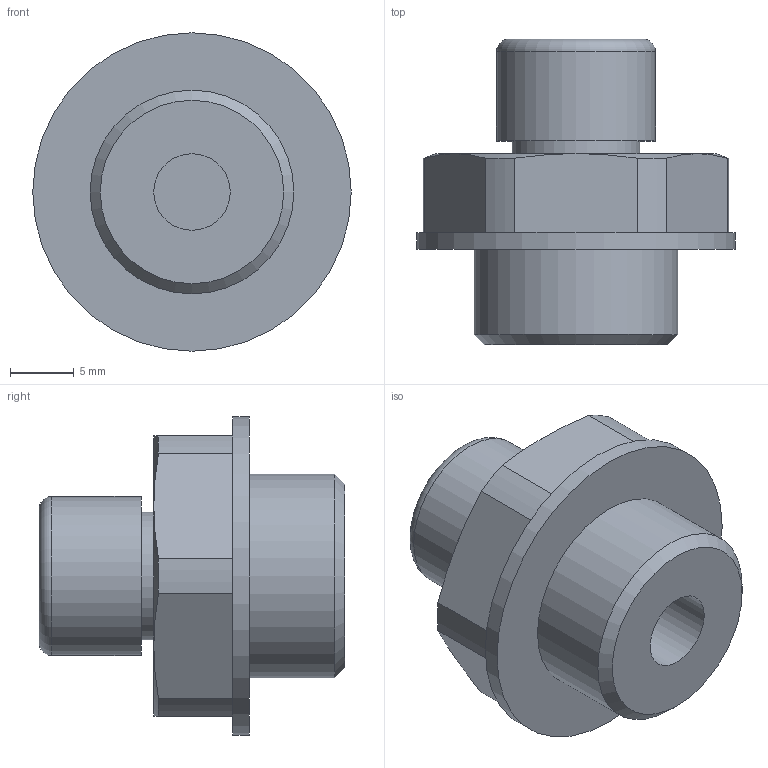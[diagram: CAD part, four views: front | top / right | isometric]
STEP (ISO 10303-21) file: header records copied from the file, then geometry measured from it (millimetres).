
FILE_DESCRIPTION( ( 'STEP AP203' ), '1' );
FILE_NAME( 'C:/Temp/Ganter_Step_05_03_2020/data/3_5/gn883/Breather valve GN 883-M16x1,5-20-B-MS.stp', '2020-03-12T13:42:49', ( 'License CC BY-ND 4.0' ), ( 'CADENAS' ), ' ', 'PARTsolutions', ' ' );
FILE_SCHEMA( ( 'CONFIG_CONTROL_DESIGN' ) );
Length unit declared in the file: millimetre
Products named in the file (1): _Breather valve GN 883-M16x1,5-20-B-MS
Bounding box: 25 x 24 x 25 mm (x, y, z)
Volume: 5411.3 mm3; surface area: 2520.4 mm2
Topology: 1 solids, 1 shells, 32 faces, 68 edges, 43 vertices
Faces by surface type: plane 13, cylinder 11, cone 7, torus 1
Full cylindrical faces by diameter (mm): 6 x1, 10 x1, 12.5 x1, 16 x1, 25 x1
Entity records: 882 total; most frequent: CARTESIAN_POINT 175, DIRECTION 144, ORIENTED_EDGE 120, AXIS2_PLACEMENT_3D 63, EDGE_CURVE 60, EDGE_LOOP 44, VERTEX_POINT 42, FACE_OUTER_BOUND 38
